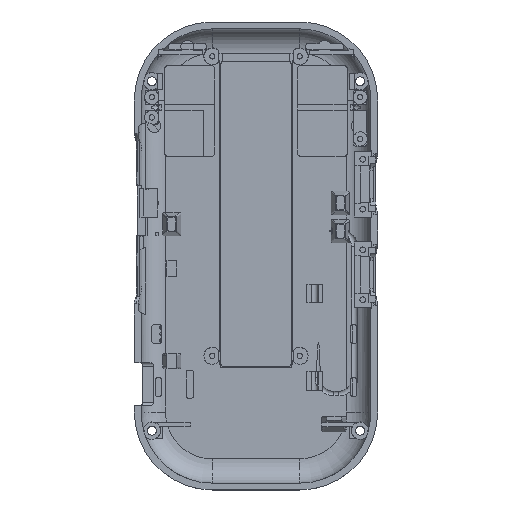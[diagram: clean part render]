
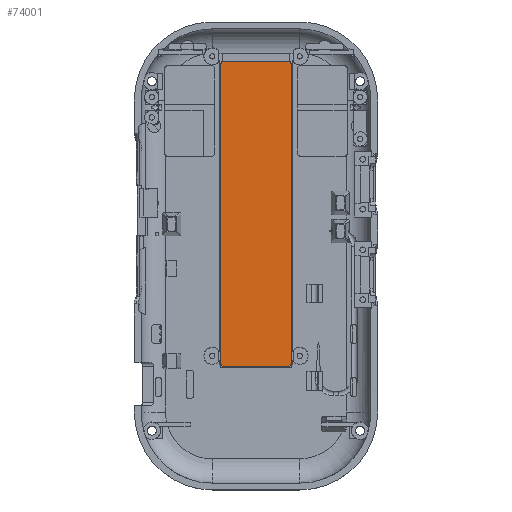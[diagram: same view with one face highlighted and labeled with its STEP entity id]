
A CAD part, top view. The second image highlights one B-rep face of the part: STEP entity #74001.
In plain terms, the highlighted planar face has unit normal (0, 0, 1).
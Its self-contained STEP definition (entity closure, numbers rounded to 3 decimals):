
#6633 = CYLINDRICAL_SURFACE('',#6634,1.);
#6634 = AXIS2_PLACEMENT_3D('',#6635,#6636,#6637);
#6635 = CARTESIAN_POINT('',(-10.25,-34.5,-22.1));
#6636 = DIRECTION('',(-0.,-0.,-1.));
#6637 = DIRECTION('',(1.,0.,0.));
#6848 = CYLINDRICAL_SURFACE('',#6849,1.);
#6849 = AXIS2_PLACEMENT_3D('',#6850,#6851,#6852);
#6850 = CARTESIAN_POINT('',(10.25,-34.5,-22.1));
#6851 = DIRECTION('',(-0.,-0.,-1.));
#6852 = DIRECTION('',(1.,0.,0.));
#18561 = PLANE('',#18562);
#18562 = AXIS2_PLACEMENT_3D('',#18563,#18564,#18565);
#18563 = CARTESIAN_POINT('',(-11.25,-34.5,-22.1));
#18564 = DIRECTION('',(-1.,0.,0.));
#18565 = DIRECTION('',(0.,1.,0.));
#18593 = CYLINDRICAL_SURFACE('',#18594,1.);
#18594 = AXIS2_PLACEMENT_3D('',#18595,#18596,#18597);
#18595 = CARTESIAN_POINT('',(-10.25,61.5,-22.1));
#18596 = DIRECTION('',(-0.,-0.,-1.));
#18597 = DIRECTION('',(1.,0.,0.));
#43942 = CYLINDRICAL_SURFACE('',#43943,1.);
#43943 = AXIS2_PLACEMENT_3D('',#43944,#43945,#43946);
#43944 = CARTESIAN_POINT('',(10.25,61.5,-22.1));
#43945 = DIRECTION('',(-0.,-0.,-1.));
#43946 = DIRECTION('',(1.,0.,0.));
#43969 = PLANE('',#43970);
#43970 = AXIS2_PLACEMENT_3D('',#43971,#43972,#43973);
#43971 = CARTESIAN_POINT('',(11.25,-34.5,-22.1));
#43972 = DIRECTION('',(-1.,0.,0.));
#43973 = DIRECTION('',(0.,1.,0.));
#44176 = VERTEX_POINT('',#44177);
#44177 = CARTESIAN_POINT('',(10.25,-35.5,-22.1));
#44193 = PLANE('',#44194);
#44194 = AXIS2_PLACEMENT_3D('',#44195,#44196,#44197);
#44195 = CARTESIAN_POINT('',(-10.25,-35.5,-22.1));
#44196 = DIRECTION('',(0.,1.,0.));
#44197 = DIRECTION('',(1.,0.,0.));
#44205 = EDGE_CURVE('',#44176,#44206,#44208,.T.);
#44206 = VERTEX_POINT('',#44207);
#44207 = CARTESIAN_POINT('',(11.25,-34.5,-22.1));
#44208 = SURFACE_CURVE('',#44209,(#44214,#44221),.PCURVE_S1.);
#44209 = CIRCLE('',#44210,1.);
#44210 = AXIS2_PLACEMENT_3D('',#44211,#44212,#44213);
#44211 = CARTESIAN_POINT('',(10.25,-34.5,-22.1));
#44212 = DIRECTION('',(0.,0.,1.));
#44213 = DIRECTION('',(1.,0.,-0.));
#44214 = PCURVE('',#6848,#44215);
#44215 = DEFINITIONAL_REPRESENTATION('',(#44216),#44220);
#44216 = LINE('',#44217,#44218);
#44217 = CARTESIAN_POINT('',(6.283,0.));
#44218 = VECTOR('',#44219,1.);
#44219 = DIRECTION('',(-1.,0.));
#44220 = ( GEOMETRIC_REPRESENTATION_CONTEXT(2) 
PARAMETRIC_REPRESENTATION_CONTEXT() REPRESENTATION_CONTEXT('2D SPACE',''
  ) );
#44221 = PCURVE('',#44222,#44227);
#44222 = PLANE('',#44223);
#44223 = AXIS2_PLACEMENT_3D('',#44224,#44225,#44226);
#44224 = CARTESIAN_POINT('',(0.,13.5,-22.1));
#44225 = DIRECTION('',(0.,0.,1.));
#44226 = DIRECTION('',(1.,0.,-0.));
#44227 = DEFINITIONAL_REPRESENTATION('',(#44228),#44232);
#44228 = CIRCLE('',#44229,1.);
#44229 = AXIS2_PLACEMENT_2D('',#44230,#44231);
#44230 = CARTESIAN_POINT('',(10.25,-48.));
#44231 = DIRECTION('',(1.,0.));
#44232 = ( GEOMETRIC_REPRESENTATION_CONTEXT(2) 
PARAMETRIC_REPRESENTATION_CONTEXT() REPRESENTATION_CONTEXT('2D SPACE',''
  ) );
#44345 = VERTEX_POINT('',#44346);
#44346 = CARTESIAN_POINT('',(-11.25,-34.5,-22.1));
#44367 = EDGE_CURVE('',#44345,#44368,#44370,.T.);
#44368 = VERTEX_POINT('',#44369);
#44369 = CARTESIAN_POINT('',(-10.25,-35.5,-22.1));
#44370 = SURFACE_CURVE('',#44371,(#44376,#44383),.PCURVE_S1.);
#44371 = CIRCLE('',#44372,1.);
#44372 = AXIS2_PLACEMENT_3D('',#44373,#44374,#44375);
#44373 = CARTESIAN_POINT('',(-10.25,-34.5,-22.1));
#44374 = DIRECTION('',(0.,0.,1.));
#44375 = DIRECTION('',(1.,0.,-0.));
#44376 = PCURVE('',#6633,#44377);
#44377 = DEFINITIONAL_REPRESENTATION('',(#44378),#44382);
#44378 = LINE('',#44379,#44380);
#44379 = CARTESIAN_POINT('',(6.283,0.));
#44380 = VECTOR('',#44381,1.);
#44381 = DIRECTION('',(-1.,0.));
#44382 = ( GEOMETRIC_REPRESENTATION_CONTEXT(2) 
PARAMETRIC_REPRESENTATION_CONTEXT() REPRESENTATION_CONTEXT('2D SPACE',''
  ) );
#44383 = PCURVE('',#44222,#44384);
#44384 = DEFINITIONAL_REPRESENTATION('',(#44385),#44389);
#44385 = CIRCLE('',#44386,1.);
#44386 = AXIS2_PLACEMENT_2D('',#44387,#44388);
#44387 = CARTESIAN_POINT('',(-10.25,-48.));
#44388 = DIRECTION('',(1.,0.));
#44389 = ( GEOMETRIC_REPRESENTATION_CONTEXT(2) 
PARAMETRIC_REPRESENTATION_CONTEXT() REPRESENTATION_CONTEXT('2D SPACE',''
  ) );
#46128 = PLANE('',#46129);
#46129 = AXIS2_PLACEMENT_3D('',#46130,#46131,#46132);
#46130 = CARTESIAN_POINT('',(-10.25,62.5,-22.1));
#46131 = DIRECTION('',(0.,1.,0.));
#46132 = DIRECTION('',(1.,0.,0.));
#53958 = VERTEX_POINT('',#53959);
#53959 = CARTESIAN_POINT('',(-10.25,62.5,-22.1));
#53980 = EDGE_CURVE('',#53958,#53981,#53983,.T.);
#53981 = VERTEX_POINT('',#53982);
#53982 = CARTESIAN_POINT('',(-11.25,61.5,-22.1));
#53983 = SURFACE_CURVE('',#53984,(#53989,#53996),.PCURVE_S1.);
#53984 = CIRCLE('',#53985,1.);
#53985 = AXIS2_PLACEMENT_3D('',#53986,#53987,#53988);
#53986 = CARTESIAN_POINT('',(-10.25,61.5,-22.1));
#53987 = DIRECTION('',(0.,0.,1.));
#53988 = DIRECTION('',(1.,0.,-0.));
#53989 = PCURVE('',#18593,#53990);
#53990 = DEFINITIONAL_REPRESENTATION('',(#53991),#53995);
#53991 = LINE('',#53992,#53993);
#53992 = CARTESIAN_POINT('',(6.283,0.));
#53993 = VECTOR('',#53994,1.);
#53994 = DIRECTION('',(-1.,0.));
#53995 = ( GEOMETRIC_REPRESENTATION_CONTEXT(2) 
PARAMETRIC_REPRESENTATION_CONTEXT() REPRESENTATION_CONTEXT('2D SPACE',''
  ) );
#53996 = PCURVE('',#44222,#53997);
#53997 = DEFINITIONAL_REPRESENTATION('',(#53998),#54002);
#53998 = CIRCLE('',#53999,1.);
#53999 = AXIS2_PLACEMENT_2D('',#54000,#54001);
#54000 = CARTESIAN_POINT('',(-10.25,48.));
#54001 = DIRECTION('',(1.,0.));
#54002 = ( GEOMETRIC_REPRESENTATION_CONTEXT(2) 
PARAMETRIC_REPRESENTATION_CONTEXT() REPRESENTATION_CONTEXT('2D SPACE',''
  ) );
#54030 = EDGE_CURVE('',#44345,#53981,#54031,.T.);
#54031 = SURFACE_CURVE('',#54032,(#54036,#54043),.PCURVE_S1.);
#54032 = LINE('',#54033,#54034);
#54033 = CARTESIAN_POINT('',(-11.25,13.5,-22.1));
#54034 = VECTOR('',#54035,1.);
#54035 = DIRECTION('',(0.,1.,0.));
#54036 = PCURVE('',#18561,#54037);
#54037 = DEFINITIONAL_REPRESENTATION('',(#54038),#54042);
#54038 = LINE('',#54039,#54040);
#54039 = CARTESIAN_POINT('',(48.,0.));
#54040 = VECTOR('',#54041,1.);
#54041 = DIRECTION('',(1.,0.));
#54042 = ( GEOMETRIC_REPRESENTATION_CONTEXT(2) 
PARAMETRIC_REPRESENTATION_CONTEXT() REPRESENTATION_CONTEXT('2D SPACE',''
  ) );
#54043 = PCURVE('',#44222,#54044);
#54044 = DEFINITIONAL_REPRESENTATION('',(#54045),#54049);
#54045 = LINE('',#54046,#54047);
#54046 = CARTESIAN_POINT('',(-11.25,0.));
#54047 = VECTOR('',#54048,1.);
#54048 = DIRECTION('',(0.,1.));
#54049 = ( GEOMETRIC_REPRESENTATION_CONTEXT(2) 
PARAMETRIC_REPRESENTATION_CONTEXT() REPRESENTATION_CONTEXT('2D SPACE',''
  ) );
#73850 = EDGE_CURVE('',#44206,#73851,#73853,.T.);
#73851 = VERTEX_POINT('',#73852);
#73852 = CARTESIAN_POINT('',(11.25,61.5,-22.1));
#73853 = SURFACE_CURVE('',#73854,(#73858,#73865),.PCURVE_S1.);
#73854 = LINE('',#73855,#73856);
#73855 = CARTESIAN_POINT('',(11.25,13.5,-22.1));
#73856 = VECTOR('',#73857,1.);
#73857 = DIRECTION('',(0.,1.,0.));
#73858 = PCURVE('',#43969,#73859);
#73859 = DEFINITIONAL_REPRESENTATION('',(#73860),#73864);
#73860 = LINE('',#73861,#73862);
#73861 = CARTESIAN_POINT('',(48.,0.));
#73862 = VECTOR('',#73863,1.);
#73863 = DIRECTION('',(1.,0.));
#73864 = ( GEOMETRIC_REPRESENTATION_CONTEXT(2) 
PARAMETRIC_REPRESENTATION_CONTEXT() REPRESENTATION_CONTEXT('2D SPACE',''
  ) );
#73865 = PCURVE('',#44222,#73866);
#73866 = DEFINITIONAL_REPRESENTATION('',(#73867),#73871);
#73867 = LINE('',#73868,#73869);
#73868 = CARTESIAN_POINT('',(11.25,0.));
#73869 = VECTOR('',#73870,1.);
#73870 = DIRECTION('',(0.,1.));
#73871 = ( GEOMETRIC_REPRESENTATION_CONTEXT(2) 
PARAMETRIC_REPRESENTATION_CONTEXT() REPRESENTATION_CONTEXT('2D SPACE',''
  ) );
#73900 = EDGE_CURVE('',#73851,#73901,#73903,.T.);
#73901 = VERTEX_POINT('',#73902);
#73902 = CARTESIAN_POINT('',(10.25,62.5,-22.1));
#73903 = SURFACE_CURVE('',#73904,(#73909,#73916),.PCURVE_S1.);
#73904 = CIRCLE('',#73905,1.);
#73905 = AXIS2_PLACEMENT_3D('',#73906,#73907,#73908);
#73906 = CARTESIAN_POINT('',(10.25,61.5,-22.1));
#73907 = DIRECTION('',(0.,0.,1.));
#73908 = DIRECTION('',(1.,0.,-0.));
#73909 = PCURVE('',#43942,#73910);
#73910 = DEFINITIONAL_REPRESENTATION('',(#73911),#73915);
#73911 = LINE('',#73912,#73913);
#73912 = CARTESIAN_POINT('',(6.283,0.));
#73913 = VECTOR('',#73914,1.);
#73914 = DIRECTION('',(-1.,0.));
#73915 = ( GEOMETRIC_REPRESENTATION_CONTEXT(2) 
PARAMETRIC_REPRESENTATION_CONTEXT() REPRESENTATION_CONTEXT('2D SPACE',''
  ) );
#73916 = PCURVE('',#44222,#73917);
#73917 = DEFINITIONAL_REPRESENTATION('',(#73918),#73922);
#73918 = CIRCLE('',#73919,1.);
#73919 = AXIS2_PLACEMENT_2D('',#73920,#73921);
#73920 = CARTESIAN_POINT('',(10.25,48.));
#73921 = DIRECTION('',(1.,0.));
#73922 = ( GEOMETRIC_REPRESENTATION_CONTEXT(2) 
PARAMETRIC_REPRESENTATION_CONTEXT() REPRESENTATION_CONTEXT('2D SPACE',''
  ) );
#73978 = EDGE_CURVE('',#44368,#44176,#73979,.T.);
#73979 = SURFACE_CURVE('',#73980,(#73984,#73991),.PCURVE_S1.);
#73980 = LINE('',#73981,#73982);
#73981 = CARTESIAN_POINT('',(0.,-35.5,-22.1));
#73982 = VECTOR('',#73983,1.);
#73983 = DIRECTION('',(1.,0.,0.));
#73984 = PCURVE('',#44193,#73985);
#73985 = DEFINITIONAL_REPRESENTATION('',(#73986),#73990);
#73986 = LINE('',#73987,#73988);
#73987 = CARTESIAN_POINT('',(10.25,0.));
#73988 = VECTOR('',#73989,1.);
#73989 = DIRECTION('',(1.,0.));
#73990 = ( GEOMETRIC_REPRESENTATION_CONTEXT(2) 
PARAMETRIC_REPRESENTATION_CONTEXT() REPRESENTATION_CONTEXT('2D SPACE',''
  ) );
#73991 = PCURVE('',#44222,#73992);
#73992 = DEFINITIONAL_REPRESENTATION('',(#73993),#73997);
#73993 = LINE('',#73994,#73995);
#73994 = CARTESIAN_POINT('',(0.,-49.));
#73995 = VECTOR('',#73996,1.);
#73996 = DIRECTION('',(1.,0.));
#73997 = ( GEOMETRIC_REPRESENTATION_CONTEXT(2) 
PARAMETRIC_REPRESENTATION_CONTEXT() REPRESENTATION_CONTEXT('2D SPACE',''
  ) );
#74001 = ADVANCED_FACE('',(#74002),#44222,.T.);
#74002 = FACE_BOUND('',#74003,.T.);
#74003 = EDGE_LOOP('',(#74004,#74005,#74006,#74007,#74008,#74009,#74010,
    #74031));
#74004 = ORIENTED_EDGE('',*,*,#54030,.F.);
#74005 = ORIENTED_EDGE('',*,*,#44367,.T.);
#74006 = ORIENTED_EDGE('',*,*,#73978,.T.);
#74007 = ORIENTED_EDGE('',*,*,#44205,.T.);
#74008 = ORIENTED_EDGE('',*,*,#73850,.T.);
#74009 = ORIENTED_EDGE('',*,*,#73900,.T.);
#74010 = ORIENTED_EDGE('',*,*,#74011,.F.);
#74011 = EDGE_CURVE('',#53958,#73901,#74012,.T.);
#74012 = SURFACE_CURVE('',#74013,(#74017,#74024),.PCURVE_S1.);
#74013 = LINE('',#74014,#74015);
#74014 = CARTESIAN_POINT('',(0.,62.5,-22.1));
#74015 = VECTOR('',#74016,1.);
#74016 = DIRECTION('',(1.,0.,0.));
#74017 = PCURVE('',#44222,#74018);
#74018 = DEFINITIONAL_REPRESENTATION('',(#74019),#74023);
#74019 = LINE('',#74020,#74021);
#74020 = CARTESIAN_POINT('',(0.,49.));
#74021 = VECTOR('',#74022,1.);
#74022 = DIRECTION('',(1.,0.));
#74023 = ( GEOMETRIC_REPRESENTATION_CONTEXT(2) 
PARAMETRIC_REPRESENTATION_CONTEXT() REPRESENTATION_CONTEXT('2D SPACE',''
  ) );
#74024 = PCURVE('',#46128,#74025);
#74025 = DEFINITIONAL_REPRESENTATION('',(#74026),#74030);
#74026 = LINE('',#74027,#74028);
#74027 = CARTESIAN_POINT('',(10.25,0.));
#74028 = VECTOR('',#74029,1.);
#74029 = DIRECTION('',(1.,0.));
#74030 = ( GEOMETRIC_REPRESENTATION_CONTEXT(2) 
PARAMETRIC_REPRESENTATION_CONTEXT() REPRESENTATION_CONTEXT('2D SPACE',''
  ) );
#74031 = ORIENTED_EDGE('',*,*,#53980,.T.);
